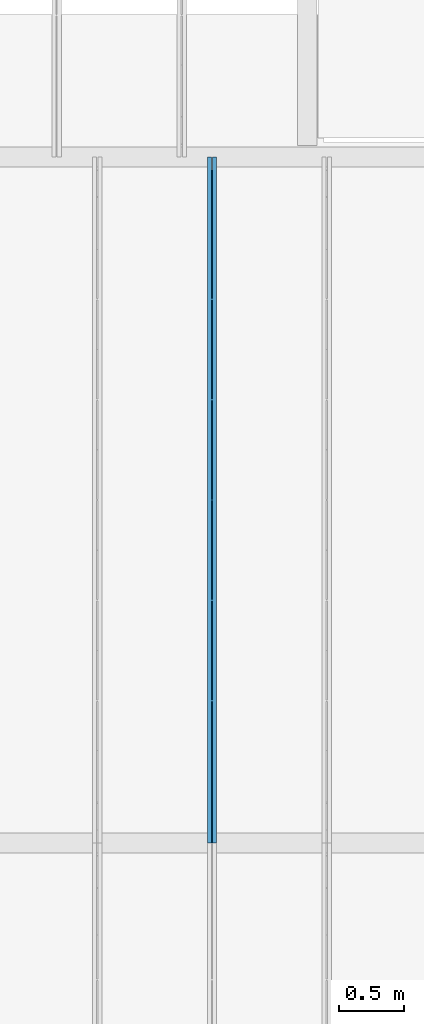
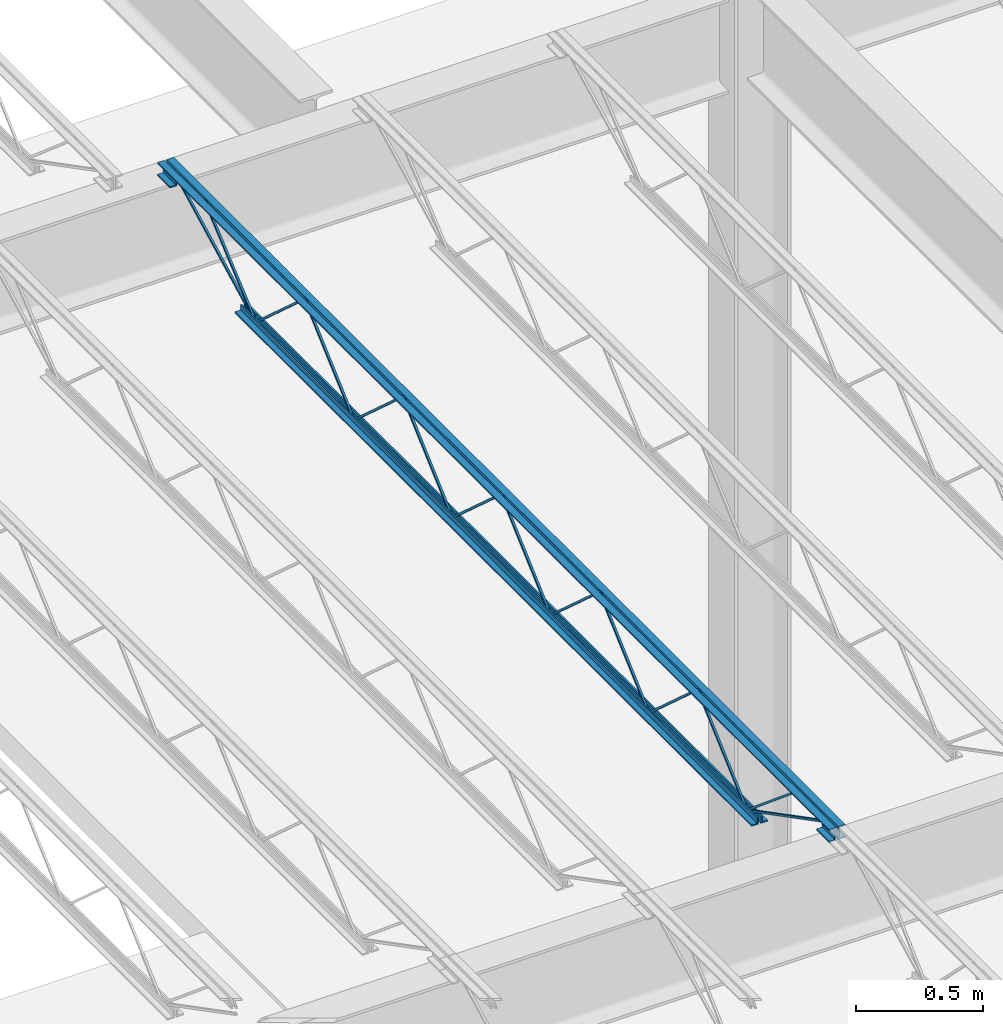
# One storey, part 85 of 119: 1 beam.
"""IFC2X3 building model written with IfcOpenShell, lengths in metres."""

from ifc_helpers import new_model, entity, si_unit, converted_unit, frame, origin, place, context, project, spatial, face_set, surface_model, element, save


model = new_model("IFC2X3")

# Units and contexts
model_context = context("Model", 3, precision=1e-09, world=origin())
plan_context = context("Plan", 3, precision=1e-09, world=origin())
ifc_project = project(units=[si_unit("LENGTHUNIT", "METRE"), si_unit("AREAUNIT", "SQUARE_METRE"), si_unit("VOLUMEUNIT", "CUBIC_METRE"), converted_unit("PLANEANGLEUNIT", "DEGREE", entity("IfcRatioMeasure", 0.01745329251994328), si_unit("PLANEANGLEUNIT", "RADIAN"), dimensions=[0, 0, 0, 0, 0, 0, 0]), si_unit("TIMEUNIT", "SECOND")], contexts=[model_context, plan_context])

# Site, building, storey
site_placement = place(None, origin())
site = spatial("IfcSite", under=ifc_project, at=site_placement, Name="Default", CompositionType="ELEMENT")
building_placement = place(site_placement, origin())
building = spatial("IfcBuilding", under=site, at=building_placement, CompositionType="ELEMENT")
storey_placement = place(building_placement, frame((0.0, 0.0, 4.570000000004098)))
storey = spatial("IfcBuildingStorey", under=building, at=storey_placement, Name="Second Floor", CompositionType="ELEMENT", Elevation=4.570000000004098)

# Beam
beam_placement = place(storey_placement, frame((-36.25300000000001, 44.78050000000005, 4.323999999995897)))
element("IfcBeam", 1, at=beam_placement, inside=storey, Name="M_K-Series Bar Joist-Rod Web:14K1:14K1", ObjectType="M_K-Series Bar Joist-Rod Web:14K1", context=model_context, shape_type="SurfaceModel", body=[
    surface_model("IfcFaceBasedSurfaceModel", [(0.04150000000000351, 3.042999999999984, 0.01110000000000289), (0.03200000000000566, 3.042999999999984, 0.01110000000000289), (0.03200000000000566, 3.042999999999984, 0.001600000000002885), (0.04150000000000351, 3.042999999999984, 0.001600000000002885), (0.03200000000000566, 3.044354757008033, 0.01110000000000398), (0.0415000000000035, 3.044354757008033, 0.01110000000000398), (0.03200000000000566, 3.047995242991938, 0.001600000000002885), (0.03200000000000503, 3.430145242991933, 0.3449000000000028), (0.03200000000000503, 3.432854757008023, 0.3449000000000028), (0.03200000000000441, 3.815004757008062, 0.001600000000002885), (0.0320000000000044, 3.819999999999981, 0.001600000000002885), (0.0320000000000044, 3.819999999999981, 0.01110000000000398), (0.0320000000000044, 3.818645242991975, 0.01110000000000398), (0.03200000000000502, 3.436495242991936, 0.3544000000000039), (0.03200000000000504, 3.426504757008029, 0.3544000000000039), (0.04150000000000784, 3.047995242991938, 0.001600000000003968), (0.04150000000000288, 3.430145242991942, 0.3449000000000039), (0.04150000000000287, 3.432854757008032, 0.3449000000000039), (0.04150000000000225, 3.815004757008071, 0.001600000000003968), (0.04150000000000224, 3.819999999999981, 0.001600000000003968), (0.04150000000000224, 3.819999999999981, 0.01110000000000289), (0.04150000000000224, 3.818645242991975, 0.01110000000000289), (0.04150000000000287, 3.436495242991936, 0.3544000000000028), (0.04150000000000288, 3.426504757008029, 0.3544000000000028), (0.04150000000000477, 2.265999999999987, 0.01110000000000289), (0.03200000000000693, 2.265999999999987, 0.01110000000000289), (0.03200000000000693, 2.265999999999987, 0.001600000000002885), (0.04150000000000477, 2.265999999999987, 0.001600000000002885), (0.03200000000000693, 2.267354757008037, 0.01110000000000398), (0.04150000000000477, 2.267354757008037, 0.01110000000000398), (0.03200000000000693, 2.270995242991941, 0.001600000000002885), (0.0320000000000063, 2.653145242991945, 0.3449000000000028), (0.0320000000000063, 2.655854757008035, 0.3449000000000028), (0.03200000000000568, 3.038004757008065, 0.001600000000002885), (0.03200000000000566, 3.042999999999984, 0.01110000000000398), (0.03200000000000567, 3.041645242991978, 0.01110000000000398), (0.03200000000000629, 2.659495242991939, 0.3544000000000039), (0.03200000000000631, 2.649504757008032, 0.3544000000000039), (0.0415000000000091, 2.270995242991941, 0.001600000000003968), (0.04150000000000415, 2.653145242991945, 0.3449000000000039), (0.04150000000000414, 2.655854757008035, 0.3449000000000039), (0.04150000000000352, 3.038004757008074, 0.001600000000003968), (0.04150000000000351, 3.042999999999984, 0.001600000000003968), (0.04150000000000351, 3.041645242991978, 0.01110000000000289), (0.04150000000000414, 2.659495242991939, 0.3544000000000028), (0.04150000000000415, 2.649504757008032, 0.3544000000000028), (0.04150000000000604, 1.488999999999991, 0.01110000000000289), (0.0320000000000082, 1.488999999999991, 0.01110000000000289), (0.0320000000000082, 1.488999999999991, 0.001600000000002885), (0.04150000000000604, 1.488999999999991, 0.001600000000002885), (0.0320000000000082, 1.49035475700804, 0.01110000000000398), (0.04150000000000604, 1.49035475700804, 0.01110000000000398), (0.0320000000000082, 1.493995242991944, 0.001600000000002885), (0.03200000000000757, 1.876145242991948, 0.3449000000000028), (0.03200000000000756, 1.878854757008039, 0.3449000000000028), (0.03200000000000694, 2.261004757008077, 0.001600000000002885), (0.03200000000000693, 2.265999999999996, 0.001600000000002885), (0.03200000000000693, 2.265999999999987, 0.01110000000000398), (0.03200000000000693, 2.264645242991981, 0.01110000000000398), (0.03200000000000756, 1.882495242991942, 0.3544000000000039), (0.03200000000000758, 1.872504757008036, 0.3544000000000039), (0.04150000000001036, 1.493995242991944, 0.001600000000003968), (0.04150000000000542, 1.876145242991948, 0.3449000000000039), (0.04150000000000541, 1.878854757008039, 0.3449000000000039), (0.04150000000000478, 2.261004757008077, 0.001600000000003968), (0.04150000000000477, 2.265999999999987, 0.001600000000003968), (0.04150000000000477, 2.265999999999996, 0.01110000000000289), (0.04150000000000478, 2.264645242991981, 0.01110000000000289), (0.04150000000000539, 1.882495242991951, 0.3544000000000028), (0.04150000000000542, 1.872504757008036, 0.3544000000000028), (0.04149999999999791, 3.819999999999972, 0.01109999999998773), (0.03200000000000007, 3.819999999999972, 0.01109999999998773), (0.03200000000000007, 3.819999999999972, 0.001599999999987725), (0.04149999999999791, 3.819999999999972, 0.001599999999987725), (0.03200000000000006, 3.821354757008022, 0.01109999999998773), (0.04149999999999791, 3.821354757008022, 0.01109999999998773), (0.03200000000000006, 3.824995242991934, 0.001599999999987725), (0.03200000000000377, 4.207145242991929, 0.3448999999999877), (0.03200000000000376, 4.20985475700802, 0.3448999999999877), (0.03200000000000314, 4.592004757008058, 0.001599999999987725), (0.03200000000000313, 4.596999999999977, 0.001599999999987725), (0.0319999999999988, 4.596999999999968, 0.01109999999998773), (0.0319999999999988, 4.595645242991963, 0.01109999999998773), (0.03199999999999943, 4.213495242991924, 0.3543999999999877), (0.03199999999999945, 4.203504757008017, 0.3543999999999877), (0.04150000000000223, 3.824995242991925, 0.001599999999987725), (0.04149999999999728, 4.207145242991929, 0.3448999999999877), (0.04149999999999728, 4.20985475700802, 0.3448999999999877), (0.04149999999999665, 4.592004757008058, 0.001599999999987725), (0.04149999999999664, 4.596999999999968, 0.001599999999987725), (0.04150000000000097, 4.596999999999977, 0.01109999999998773), (0.04150000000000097, 4.595645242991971, 0.01109999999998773), (0.0415000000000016, 4.213495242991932, 0.3543999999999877), (0.04150000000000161, 4.203504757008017, 0.3543999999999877), (0.04150000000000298, 0.7119999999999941, 0.01110000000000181), (0.03200000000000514, 0.7119999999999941, 0.01110000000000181), (0.03200000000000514, 0.7119999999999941, 0.001600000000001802), (0.04150000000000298, 0.7119999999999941, 0.001600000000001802), (0.03200000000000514, 0.7133547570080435, 0.01110000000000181), (0.04150000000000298, 0.7133547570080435, 0.01110000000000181), (0.03200000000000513, 0.7169952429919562, 0.001600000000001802), (0.0320000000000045, 1.099145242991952, 0.3449000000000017), (0.0320000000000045, 1.101854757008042, 0.3449000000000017), (0.03200000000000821, 1.484004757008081, 0.001600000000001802), (0.0320000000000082, 1.488999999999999, 0.001600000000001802), (0.03200000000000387, 1.488999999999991, 0.01110000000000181), (0.03200000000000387, 1.487645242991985, 0.01110000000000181), (0.0320000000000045, 1.105495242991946, 0.3544000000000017), (0.03200000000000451, 1.095504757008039, 0.3544000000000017), (0.0415000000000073, 0.7169952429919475, 0.001600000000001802), (0.04150000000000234, 1.099145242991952, 0.3449000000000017), (0.04150000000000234, 1.101854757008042, 0.3449000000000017), (0.04150000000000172, 1.484004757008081, 0.001600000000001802), (0.04150000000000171, 1.488999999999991, 0.001600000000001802), (0.04150000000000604, 1.488999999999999, 0.01110000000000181), (0.04150000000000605, 1.487645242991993, 0.01110000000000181), (0.04150000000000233, 1.105495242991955, 0.3544000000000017), (0.04150000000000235, 1.095504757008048, 0.3544000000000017), (0.0320000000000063, 5.308999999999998, 0.3559999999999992), (0.0, 5.308999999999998, 0.3559999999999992), (0.0, 5.308999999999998, 0.3494999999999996), (0.02550000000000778, 5.308999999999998, 0.3494999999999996), (0.02550000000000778, 5.308999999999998, 0.3239999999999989), (0.0320000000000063, 5.308999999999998, 0.3239999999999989), (0.04150000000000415, 5.308999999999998, 0.3559999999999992), (0.04150000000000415, 5.308999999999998, 0.3239999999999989), (0.048000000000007, 5.308999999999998, 0.3239999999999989), (0.048000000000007, 5.308999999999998, 0.3494999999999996), (0.07350000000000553, 5.308999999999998, 0.3494999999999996), (0.07350000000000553, 5.308999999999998, 0.3559999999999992), (0.0320000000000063, 0.0, 0.3559999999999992), (0.0, 0.0, 0.3559999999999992), (0.0, 0.0, 0.3494999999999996), (0.02550000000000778, 0.0, 0.3494999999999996), (0.02550000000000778, 0.0, 0.3239999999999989), (0.0320000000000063, 0.0, 0.3239999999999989), (0.04150000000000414, 0.0, 0.3559999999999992), (0.04150000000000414, 0.0, 0.3239999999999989), (0.04800000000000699, 0.0, 0.3239999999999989), (0.04800000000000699, 0.0, 0.3494999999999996), (0.07350000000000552, 0.0, 0.3494999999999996), (0.07350000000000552, 0.0, 0.3559999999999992), (0.04150000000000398, 0.09999999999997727, 0.2924999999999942), (0.07350000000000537, 0.09999999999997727, 0.2924999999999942), (0.07350000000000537, 0.09999999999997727, 0.2989999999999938), (0.0480000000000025, 0.09999999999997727, 0.2989999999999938), (0.0480000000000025, 0.09999999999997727, 0.3239999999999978), (0.04150000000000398, 0.09999999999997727, 0.3239999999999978), (0.0, 0.09999999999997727, 0.2924999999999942), (0.03200000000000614, 0.09999999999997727, 0.2924999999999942), (0.03200000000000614, 0.09999999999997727, 0.3239999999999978), (0.02550000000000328, 0.09999999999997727, 0.3239999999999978), (0.02550000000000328, 0.09999999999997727, 0.2989999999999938), (0.0, 0.09999999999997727, 0.2989999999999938), (0.04150000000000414, 0.0, 0.2924999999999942), (0.07350000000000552, 0.0, 0.2924999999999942), (0.07350000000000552, 0.0, 0.2989999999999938), (0.04800000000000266, 0.0, 0.2989999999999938), (0.04800000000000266, 0.0, 0.3239999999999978), (0.04150000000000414, 0.0, 0.3239999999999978), (0.0, 0.0, 0.2924999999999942), (0.0320000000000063, 0.0, 0.2924999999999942), (0.0320000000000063, 0.0, 0.3239999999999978), (0.02550000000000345, 0.0, 0.3239999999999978), (0.02550000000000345, 0.0, 0.2989999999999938), (0.0, 0.0, 0.2989999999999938), (0.0320000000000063, 5.308999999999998, 0.2924999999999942), (0.0320000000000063, 5.308999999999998, 0.3239999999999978), (0.02550000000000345, 5.308999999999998, 0.3239999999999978), (0.02550000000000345, 5.308999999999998, 0.2989999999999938), (0.0, 5.308999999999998, 0.2989999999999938), (0.0, 5.308999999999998, 0.2924999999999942), (0.04150000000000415, 5.308999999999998, 0.2924999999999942), (0.07350000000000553, 5.308999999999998, 0.2924999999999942), (0.07350000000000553, 5.308999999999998, 0.2989999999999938), (0.04800000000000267, 5.308999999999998, 0.2989999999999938), (0.04800000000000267, 5.308999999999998, 0.3239999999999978), (0.04150000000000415, 5.308999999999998, 0.3239999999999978), (0.03200000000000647, 5.208999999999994, 0.2924999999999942), (0.03200000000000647, 5.208999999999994, 0.3239999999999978), (0.02550000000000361, 5.208999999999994, 0.3239999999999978), (0.02550000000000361, 5.208999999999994, 0.2989999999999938), (0.0, 5.208999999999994, 0.2989999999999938), (0.0, 5.208999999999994, 0.2924999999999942), (0.0415000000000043, 5.208999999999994, 0.2924999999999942), (0.0735000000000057, 5.208999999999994, 0.2924999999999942), (0.0735000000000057, 5.208999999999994, 0.2989999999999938), (0.04800000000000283, 5.208999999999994, 0.2989999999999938), (0.04800000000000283, 5.208999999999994, 0.3239999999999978), (0.0415000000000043, 5.208999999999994, 0.3239999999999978), (0.0320000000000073, 4.697000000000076, 0.0), (0.0320000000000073, 4.697000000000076, 0.03199999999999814), (0.02550000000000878, 4.697000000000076, 0.03199999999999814), (0.02550000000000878, 4.697000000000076, 0.006499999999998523), (0.0, 4.697000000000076, 0.006499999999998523), (0.0, 4.697000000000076, 0.0), (0.04150000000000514, 4.697000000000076, 0.0), (0.07350000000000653, 4.697000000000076, 0.0), (0.07350000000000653, 4.697000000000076, 0.006499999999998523), (0.048000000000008, 4.697000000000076, 0.006499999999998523), (0.048000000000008, 4.697000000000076, 0.03199999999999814), (0.04150000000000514, 4.697000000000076, 0.03199999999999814), (0.0320000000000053, 0.6120000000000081, 0.0), (0.0320000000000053, 0.6120000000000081, 0.03199999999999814), (0.02550000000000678, 0.6120000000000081, 0.03199999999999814), (0.02550000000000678, 0.6120000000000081, 0.006499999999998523), (0.0, 0.6120000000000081, 0.006499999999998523), (0.0, 0.6120000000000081, 0.0), (0.04150000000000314, 0.6120000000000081, 0.0), (0.07350000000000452, 0.6120000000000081, 0.0), (0.07350000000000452, 0.6120000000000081, 0.006499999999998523), (0.04800000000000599, 0.6120000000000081, 0.006499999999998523), (0.04800000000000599, 0.6120000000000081, 0.03199999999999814), (0.04150000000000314, 0.6120000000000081, 0.03199999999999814), (0.04150000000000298, 0.7141882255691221, 0.01056594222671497), (0.03200000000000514, 0.7141882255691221, 0.01056594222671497), (0.03200000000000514, 0.7098117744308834, 0.00213405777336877), (0.04150000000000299, 0.7098117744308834, 0.00213405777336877), (0.04150000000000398, 0.101159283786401, 0.3287499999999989), (0.04150000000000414, 0.0, 0.3287499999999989), (0.04150000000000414, 0.0, 0.3192499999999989), (0.04150000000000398, 0.09884071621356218, 0.3192499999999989), (0.03200000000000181, 0.09884071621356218, 0.3192499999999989), (0.03200000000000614, 0.101159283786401, 0.3287499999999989), (0.0320000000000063, 0.0, 0.3287499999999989), (0.0320000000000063, 0.0, 0.3192499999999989), (0.04150000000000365, 0.3035428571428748, 0.3417000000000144), (0.0320000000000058, 0.3035428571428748, 0.3417000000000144), (0.0320000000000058, 0.3035428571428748, 0.3322000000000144), (0.04150000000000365, 0.3035428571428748, 0.3322000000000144), (0.03200000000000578, 0.3179658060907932, 0.3417000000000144), (0.04150000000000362, 0.3179658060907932, 0.3417000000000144), (0.03200000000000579, 0.3145199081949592, 0.3322000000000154), (0.03200000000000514, 0.7089547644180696, 0.002704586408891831), (0.03200000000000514, 0.7150452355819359, 0.009995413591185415), (0.04150000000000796, 0.3145199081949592, 0.3322000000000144), (0.04150000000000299, 0.7089547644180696, 0.002704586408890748), (0.04150000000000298, 0.7150452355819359, 0.009995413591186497), (0.0415000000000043, 5.211188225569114, 0.3197840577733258), (0.0415000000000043, 5.206811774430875, 0.328215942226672), (0.03200000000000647, 5.206811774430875, 0.328215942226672), (0.03200000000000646, 5.211188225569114, 0.3197840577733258), (0.0415000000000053, 4.599188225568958, 0.002134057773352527), (0.0415000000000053, 4.59481177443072, 0.01056594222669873), (0.03200000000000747, 4.59481177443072, 0.01056594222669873), (0.03200000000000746, 4.599188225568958, 0.002134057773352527), (0.04150000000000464, 5.003094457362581, 0.3460340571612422), (0.04150000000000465, 4.996934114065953, 0.35326594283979), (0.03200000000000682, 4.996934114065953, 0.3532659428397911), (0.0320000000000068, 5.003094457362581, 0.3460340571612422), (0.0415000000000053, 4.600080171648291, 0.002734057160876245), (0.04150000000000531, 4.593919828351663, 0.00996594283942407), (0.03200000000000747, 4.593919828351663, 0.00996594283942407), (0.03200000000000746, 4.600080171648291, 0.002734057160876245)], [face_set([[[0, 1, 2, 3]], [[1, 4, 5, 0]], [[2, 6, 7, 8, 9, 10, 11, 12, 13, 14, 4, 1]], [[3, 2, 6, 15]], [[0, 3, 15, 16, 17, 18, 19, 20, 21, 22, 23, 5]], [[4, 5, 23, 14]], [[15, 16, 7, 6]], [[14, 13, 22, 23]], [[16, 7, 8, 17]], [[13, 12, 21, 22]], [[17, 8, 9, 18]], [[20, 11, 10, 19]], [[12, 11, 20, 21]], [[18, 9, 10, 19]]]), face_set([[[24, 25, 26, 27]], [[25, 28, 29, 24]], [[26, 30, 31, 32, 33, 2, 34, 35, 36, 37, 28, 25]], [[27, 26, 30, 38]], [[24, 27, 38, 39, 40, 41, 42, 0, 43, 44, 45, 29]], [[28, 29, 45, 37]], [[38, 39, 31, 30]], [[37, 36, 44, 45]], [[39, 31, 32, 40]], [[36, 35, 43, 44]], [[40, 32, 33, 41]], [[0, 34, 2, 42]], [[35, 34, 0, 43]], [[41, 33, 2, 42]]]), face_set([[[46, 47, 48, 49]], [[47, 50, 51, 46]], [[48, 52, 53, 54, 55, 56, 57, 58, 59, 60, 50, 47]], [[49, 48, 52, 61]], [[46, 49, 61, 62, 63, 64, 65, 66, 67, 68, 69, 51]], [[50, 51, 69, 60]], [[61, 62, 53, 52]], [[60, 59, 68, 69]], [[62, 53, 54, 63]], [[59, 58, 67, 68]], [[63, 54, 55, 64]], [[66, 57, 56, 65]], [[58, 57, 66, 67]], [[64, 55, 56, 65]]]), face_set([[[70, 71, 72, 73]], [[71, 74, 75, 70]], [[72, 76, 77, 78, 79, 80, 81, 82, 83, 84, 74, 71]], [[73, 72, 76, 85]], [[70, 73, 85, 86, 87, 88, 89, 90, 91, 92, 93, 75]], [[74, 75, 93, 84]], [[85, 86, 77, 76]], [[84, 83, 92, 93]], [[86, 77, 78, 87]], [[83, 82, 91, 92]], [[87, 78, 79, 88]], [[90, 81, 80, 89]], [[82, 81, 90, 91]], [[88, 79, 80, 89]]]), face_set([[[94, 95, 96, 97]], [[95, 98, 99, 94]], [[96, 100, 101, 102, 103, 104, 105, 106, 107, 108, 98, 95]], [[97, 96, 100, 109]], [[94, 97, 109, 110, 111, 112, 113, 114, 115, 116, 117, 99]], [[98, 99, 117, 108]], [[109, 110, 101, 100]], [[108, 107, 116, 117]], [[110, 101, 102, 111]], [[107, 106, 115, 116]], [[111, 102, 103, 112]], [[114, 105, 104, 113]], [[106, 105, 114, 115]], [[112, 103, 104, 113]]]), face_set([[[118, 119, 120, 121, 122, 123]], [[124, 125, 126, 127, 128, 129]], [[130, 131, 132, 133, 134, 135]], [[136, 137, 138, 139, 140, 141]], [[123, 118, 130, 135]], [[122, 123, 135, 134]], [[121, 133, 134, 122]], [[120, 121, 133, 132]], [[119, 131, 132, 120]], [[118, 130, 131, 119]], [[129, 141, 136, 124]], [[128, 129, 141, 140]], [[127, 128, 140, 139]], [[126, 127, 139, 138]], [[125, 126, 138, 137]], [[124, 136, 137, 125]]]), face_set([[[142, 143, 144, 145, 146, 147]], [[148, 149, 150, 151, 152, 153]], [[154, 155, 156, 157, 158, 159]], [[160, 161, 162, 163, 164, 165]], [[147, 159, 154, 142]], [[146, 158, 159, 147]], [[145, 146, 158, 157]], [[144, 156, 157, 145]], [[143, 144, 156, 155]], [[142, 143, 155, 154]], [[153, 165, 160, 148]], [[152, 164, 165, 153]], [[151, 163, 164, 152]], [[150, 162, 163, 151]], [[149, 150, 162, 161]], [[148, 149, 161, 160]]]), face_set([[[166, 167, 168, 169, 170, 171]], [[172, 173, 174, 175, 176, 177]], [[178, 179, 180, 181, 182, 183]], [[184, 185, 186, 187, 188, 189]], [[171, 166, 178, 183]], [[170, 182, 183, 171]], [[169, 181, 182, 170]], [[168, 180, 181, 169]], [[167, 179, 180, 168]], [[166, 167, 179, 178]], [[177, 189, 184, 172]], [[176, 188, 189, 177]], [[175, 176, 188, 187]], [[174, 186, 187, 175]], [[173, 174, 186, 185]], [[172, 173, 185, 184]]]), face_set([[[190, 191, 192, 193, 194, 195]], [[196, 197, 198, 199, 200, 201]], [[202, 203, 204, 205, 206, 207]], [[208, 209, 210, 211, 212, 213]], [[195, 190, 202, 207]], [[194, 206, 207, 195]], [[193, 205, 206, 194]], [[192, 204, 205, 193]], [[191, 203, 204, 192]], [[190, 191, 203, 202]], [[201, 213, 208, 196]], [[200, 212, 213, 201]], [[199, 200, 212, 211]], [[198, 210, 211, 199]], [[197, 198, 210, 209]], [[196, 197, 209, 208]]]), face_set([[[214, 215, 216, 217]], [[217, 214, 218, 219, 220, 221]], [[216, 217, 221, 222]], [[215, 223, 224, 225, 222, 216]], [[214, 218, 223, 215]], [[219, 224, 225, 220]], [[222, 221, 220, 225]], [[218, 219, 224, 223]]]), face_set([[[226, 227, 228, 229]], [[227, 230, 231, 226]], [[228, 232, 233, 234, 230, 227]], [[229, 228, 232, 235]], [[226, 229, 235, 236, 237, 231]], [[237, 234, 233, 236]], [[230, 234, 237, 231]], [[235, 232, 233, 236]]]), face_set([[[238, 239, 240, 241]], [[242, 243, 244, 245]], [[241, 245, 242, 238]], [[240, 244, 245, 241]], [[239, 240, 244, 243]], [[238, 239, 243, 242]]]), face_set([[[246, 247, 248, 249]], [[250, 251, 252, 253]], [[249, 253, 250, 246]], [[248, 252, 253, 249]], [[247, 248, 252, 251]], [[246, 247, 251, 250]]])]),
])

save(model, "model.ifc")
